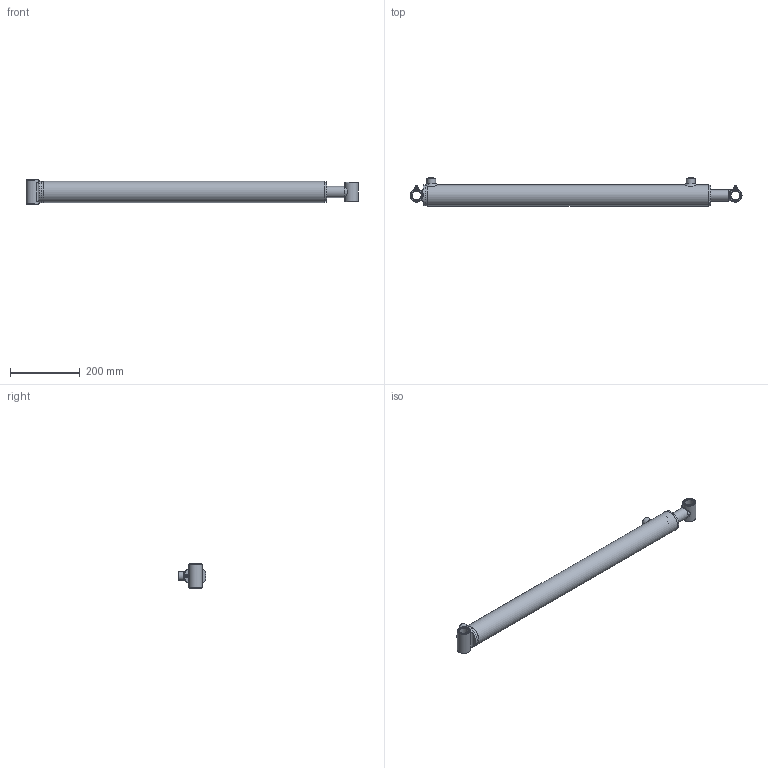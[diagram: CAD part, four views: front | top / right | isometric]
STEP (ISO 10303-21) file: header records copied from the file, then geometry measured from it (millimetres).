
FILE_DESCRIPTION(/* description */ (''),/* implementation_level */ '2;1');
FILE_NAME(/* name */ 'C:\01 - Philip\00 - Philip Rivard\01 - Contracts\Eagle Hydraulic Components\00 - 3D Cylinder\01 - Standard\HBU\HBU20XX\STEP\HBU2028.stp',/* time_stamp */ '2015-05-19T20:07:33-04:00',/* author */ ('Philip'),/* organization */ (''),/* preprocessor_version */ 'ST-DEVELOPER v16.1',/* originating_system */ 'Autodesk Inventor 2016',/* authorisation */ '');
FILE_SCHEMA (('AUTOMOTIVE_DESIGN { 1 0 10303 214 3 1 1 }'));
Length unit declared in the file: inch
Products named in the file (12): Tube_Welding_Welds; ECP-20-HBU; Tube; Straight_Port; Gland; Grease Fitting 1-8; Tube_Welding; Rod_Welding_Welds; Rod; Bushing; Rod_Welding; Cylinder_Assembly
Assembly tree (13 placements, depth 3):
  Cylinder_Assembly
    Tube_Welding
      Tube_Welding_Welds
      ECP-20-HBU
      Tube
      Straight_Port  x2
      Gland
      Grease Fitting 1-8
    Rod_Welding
      Rod_Welding_Welds
      Rod
      Bushing
      Grease Fitting 1-8
Bounding box: 952.5 x 80.33 x 69.8 mm (x, y, z)
Volume: 1516952.1 mm3; surface area: 434871.5 mm2
Topology: 12 solids, 12 shells, 197 faces, 429 edges, 260 vertices
Faces by surface type: cone 65, plane 55, cylinder 50, torus 15, bspline 10, sphere 2
Full cylindrical faces by diameter (mm): 4 x2, 5 x1, 7.5 x2, 8 x2, 10 x2, 12.751 x2, 22 x1, 25 x4, 25.4 x2, 25.65 x2, 26 x1, 26.25 x1, 31.75 x2, 38.1 x2, 43 x1, 44.45 x1, 50.546 x1, 50.75 x1, 50.8 x1, 51 x1, 55 x4, 60.3 x1, 60.325 x1
Entity records: 6084 total; most frequent: CARTESIAN_POINT 2894, DIRECTION 631, ORIENTED_EDGE 486, AXIS2_PLACEMENT_3D 293, EDGE_LOOP 270, EDGE_CURVE 243, VERTEX_POINT 191, ADVANCED_FACE 157
